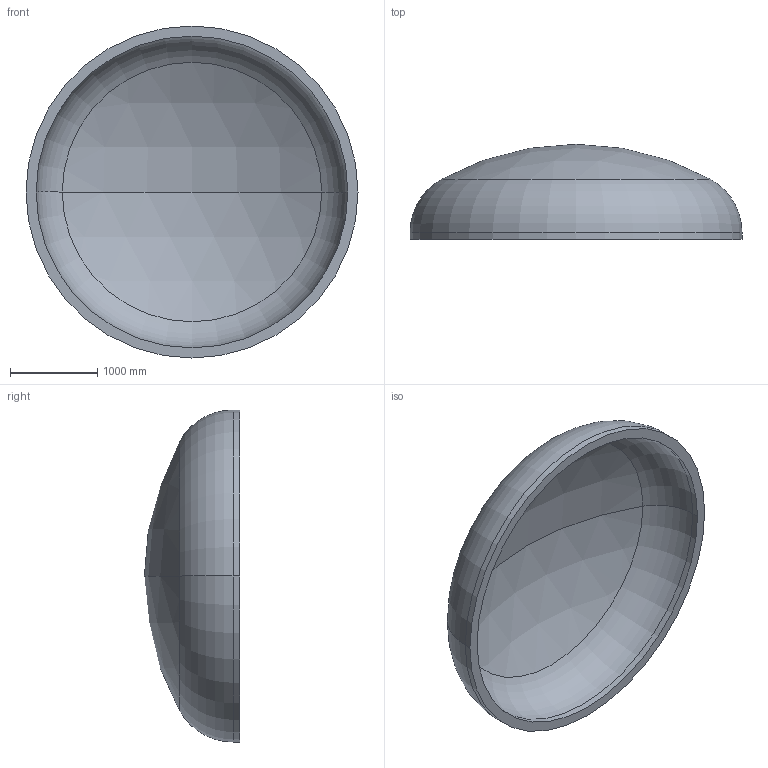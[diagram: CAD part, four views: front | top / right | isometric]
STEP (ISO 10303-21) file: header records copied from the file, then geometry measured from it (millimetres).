
FILE_DESCRIPTION (( 'STEP AP203' ), '1' );
FILE_NAME ('DIN 28013 Korbbogenform_-_Boden DIN 28013 - 3800 x 75 - I - s=116.step', '2016-07-01T21:53:56', ( '' ), ( '' ), 'SwSTEP 2.0', 'SolidWorks 2013', '' );
FILE_SCHEMA (( 'CONFIG_CONTROL_DESIGN' ));
Length unit declared in the file: millimetre
Products named in the file (1): DIN 28013 Korbbogenform_-_Boden DIN 28013 - 3800 x 75 - I - s=116
Bounding box: 3800 x 1088.71 x 3800 mm (x, y, z)
Volume: 1851417329.2 mm3; surface area: 33291700.5 mm2
Topology: 1 solids, 1 shells, 13 faces, 24 edges, 14 vertices
Faces by surface type: torus 4, cylinder 4, sphere 4, plane 1
Entity records: 407 total; most frequent: DIRECTION 72, CARTESIAN_POINT 52, ORIENTED_EDGE 48, AXIS2_PLACEMENT_3D 34, EDGE_CURVE 24, CIRCLE 20, EDGE_LOOP 14, VERTEX_POINT 14
